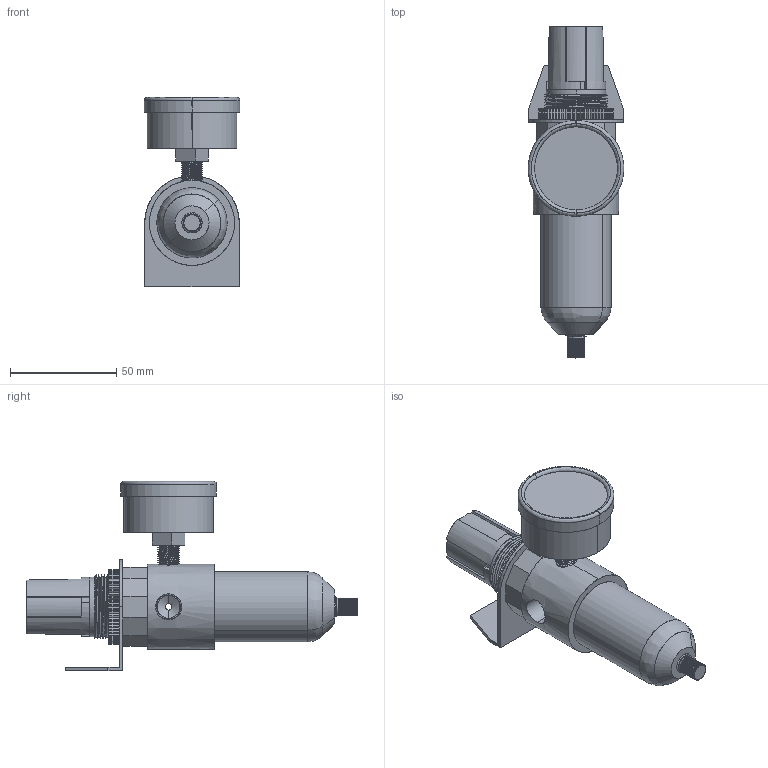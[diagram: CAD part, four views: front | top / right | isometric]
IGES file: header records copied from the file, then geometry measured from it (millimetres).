
Start section: SolidWorks IGES file using analytic representation for surfaces
Global section: file name: D:\Custom\3D繪製\FRL\B549\B549-02#YGB.IGS,1; native system: 5HSolidWorks 2014; preprocessor: SolidWorks 2014; author: Chieh_Lu; date: 160115.022700; units: millimetre
Bounding box: 45 x 156 x 89 mm (x, y, z)
Surface area: 41907.3 mm2 (no closed solid volume)
Topology: 0 solids, 0 shells, 549 faces, 5924 edges, 5922 vertices
Faces by surface type: bspline 369, revolution 180
